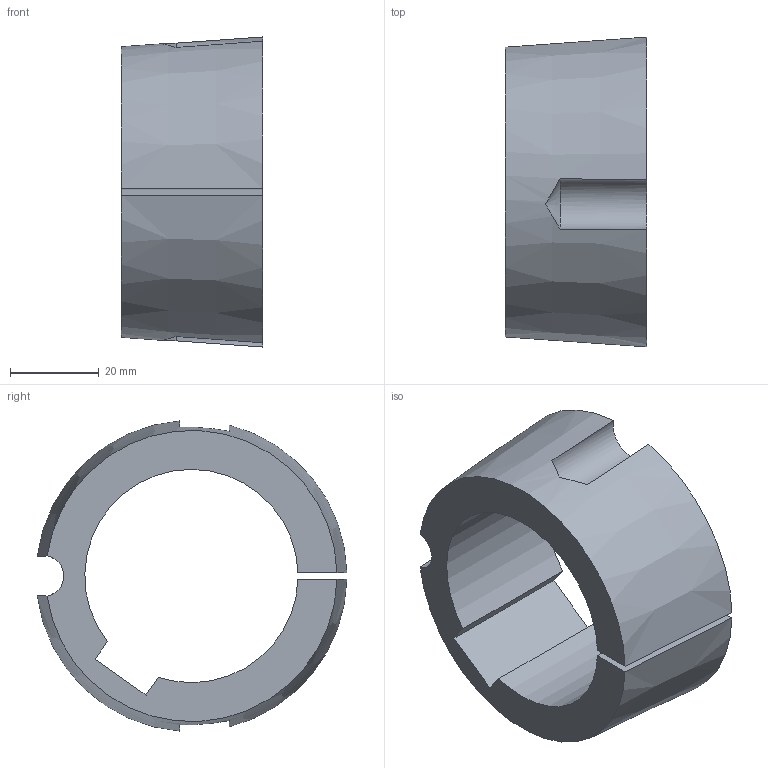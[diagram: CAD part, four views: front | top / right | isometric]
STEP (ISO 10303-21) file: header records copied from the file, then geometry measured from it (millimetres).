
FILE_DESCRIPTION( ( 'STEP AP203' ), '1' );
FILE_NAME( 'D:/export/antriebselemente/spannbuchsen_und_spannsaetze/taper-spannbuchsen_1008_bis_5050/taper-spannbuchsen_62250548Isometric_132.stp', '2018-12-11T11:11:14', ( '' ), ( '' ), ' ', 'PARTsolutions', ' ' );
FILE_SCHEMA( ( 'CONFIG_CONTROL_DESIGN' ) );
Length unit declared in the file: millimetre
Products named in the file (1): _taper-spannbuchsen_62250548
Bounding box: 31.8 x 69.72 x 69.81 mm (x, y, z)
Volume: 51315.2 mm3; surface area: 16213.1 mm2
Topology: 1 solids, 1 shells, 16 faces, 42 edges, 28 vertices
Faces by surface type: plane 7, cylinder 5, cone 4
Entity records: 618 total; most frequent: CARTESIAN_POINT 179, ORIENTED_EDGE 84, DIRECTION 82, EDGE_CURVE 42, AXIS2_PLACEMENT_3D 33, VERTEX_POINT 28, ADVANCED_FACE 16, FACE_OUTER_BOUND 16
